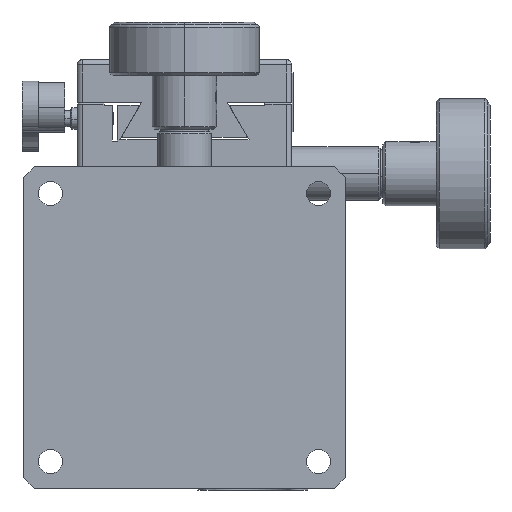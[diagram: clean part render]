
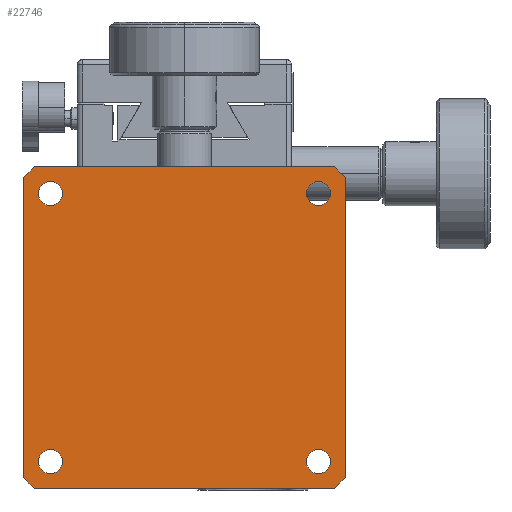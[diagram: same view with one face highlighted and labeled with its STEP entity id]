
A CAD part, front view. The second image highlights one B-rep face of the part: STEP entity #22746.
In plain terms, the highlighted planar face has unit normal (0, -1, 0).
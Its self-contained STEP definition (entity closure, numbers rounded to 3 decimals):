
#327 = CARTESIAN_POINT ( 'NONE',  ( 22.75, 0., 25. ) ) ;
#1733 = CARTESIAN_POINT ( 'NONE',  ( -59., 0., 1. ) ) ;
#2588 = ORIENTED_EDGE ( 'NONE', *, *, #20449, .F. ) ;
#2700 = ORIENTED_EDGE ( 'NONE', *, *, #21807, .T. ) ;
#3586 = CARTESIAN_POINT ( 'NONE',  ( -1., 0., 59. ) ) ;
#4883 = FACE_BOUND ( 'NONE', #30189, .T. ) ;
#6640 = DIRECTION ( 'NONE',  ( 0.707, 0., 0.707 ) ) ;
#7033 = DIRECTION ( 'NONE',  ( 0., 1., 0. ) ) ;
#7730 = ORIENTED_EDGE ( 'NONE', *, *, #87680, .T. ) ;
#7900 = VERTEX_POINT ( 'NONE', #66329 ) ;
#8318 = AXIS2_PLACEMENT_3D ( 'NONE', #34616, #93643, #43062 ) ;
#8976 = VERTEX_POINT ( 'NONE', #66636 ) ;
#9422 = CARTESIAN_POINT ( 'NONE',  ( -25., 0., 25. ) ) ;
#9704 = DIRECTION ( 'NONE',  ( 0., 0., -1. ) ) ;
#10124 = DIRECTION ( 'NONE',  ( 0., 1., 0. ) ) ;
#10268 = CIRCLE ( 'NONE', #67258, 2.25 ) ;
#11246 = CARTESIAN_POINT ( 'NONE',  ( -27.25, 0., -25. ) ) ;
#11653 = VERTEX_POINT ( 'NONE', #11246 ) ;
#12054 = VECTOR ( 'NONE', #57201, 1000. ) ;
#12373 = AXIS2_PLACEMENT_3D ( 'NONE', #15144, #35153, #22229 ) ;
#13105 = EDGE_CURVE ( 'NONE', #75875, #79825, #83135, .T. ) ;
#15144 = CARTESIAN_POINT ( 'NONE',  ( -30., 0., 30. ) ) ;
#15877 = VECTOR ( 'NONE', #35464, 1000. ) ;
#16592 = ORIENTED_EDGE ( 'NONE', *, *, #82965, .F. ) ;
#17905 = DIRECTION ( 'NONE',  ( 1., 0., 0. ) ) ;
#18703 = ORIENTED_EDGE ( 'NONE', *, *, #53435, .T. ) ;
#20449 = EDGE_CURVE ( 'NONE', #57301, #8976, #101525, .T. ) ;
#21781 = DIRECTION ( 'NONE',  ( 1., 0., 0. ) ) ;
#21807 = EDGE_CURVE ( 'NONE', #58912, #7900, #76342, .T. ) ;
#21817 = ORIENTED_EDGE ( 'NONE', *, *, #13105, .F. ) ;
#21945 = FACE_BOUND ( 'NONE', #24502, .T. ) ;
#22022 = DIRECTION ( 'NONE',  ( 0., 1., 0. ) ) ;
#22229 = DIRECTION ( 'NONE',  ( -1., 0., 0. ) ) ;
#22274 = CARTESIAN_POINT ( 'NONE',  ( 25., 0., 25. ) ) ;
#22746 = ADVANCED_FACE ( 'NONE', ( #21945, #4883, #89217, #108924, #86593 ), #58031, .T. ) ;
#24296 = VERTEX_POINT ( 'NONE', #40363 ) ;
#24385 = EDGE_CURVE ( 'NONE', #79705, #103419, #62529, .T. ) ;
#24502 = EDGE_LOOP ( 'NONE', ( #108245, #29066 ) ) ;
#25673 = CARTESIAN_POINT ( 'NONE',  ( 28., 0., -30. ) ) ;
#26823 = AXIS2_PLACEMENT_3D ( 'NONE', #85955, #85083, #85325 ) ;
#29066 = ORIENTED_EDGE ( 'NONE', *, *, #33368, .T. ) ;
#30068 = EDGE_CURVE ( 'NONE', #86393, #96798, #32722, .T. ) ;
#30189 = EDGE_LOOP ( 'NONE', ( #64219, #102596 ) ) ;
#30524 = EDGE_CURVE ( 'NONE', #75875, #8976, #88105, .T. ) ;
#30751 = VERTEX_POINT ( 'NONE', #25673 ) ;
#31618 = ORIENTED_EDGE ( 'NONE', *, *, #83803, .F. ) ;
#32722 = CIRCLE ( 'NONE', #26823, 2.25 ) ;
#33082 = CARTESIAN_POINT ( 'NONE',  ( 30., 0., 28. ) ) ;
#33368 = EDGE_CURVE ( 'NONE', #103419, #79705, #87282, .T. ) ;
#34380 = LINE ( 'NONE', #98546, #12054 ) ;
#34616 = CARTESIAN_POINT ( 'NONE',  ( 25., 0., -25. ) ) ;
#35153 = DIRECTION ( 'NONE',  ( 0., -1., 0. ) ) ;
#35340 = CARTESIAN_POINT ( 'NONE',  ( 30., 0., 30. ) ) ;
#35464 = DIRECTION ( 'NONE',  ( 1., 0., 0. ) ) ;
#35846 = DIRECTION ( 'NONE',  ( 0.707, 0., -0.707 ) ) ;
#36904 = VECTOR ( 'NONE', #100792, 1000. ) ;
#37162 = LINE ( 'NONE', #1733, #56937 ) ;
#37801 = AXIS2_PLACEMENT_3D ( 'NONE', #22274, #22022, #21781 ) ;
#39283 = DIRECTION ( 'NONE',  ( 0., 1., 0. ) ) ;
#40229 = EDGE_LOOP ( 'NONE', ( #55373, #7730 ) ) ;
#40363 = CARTESIAN_POINT ( 'NONE',  ( -22.75, 0., -25. ) ) ;
#41322 = CARTESIAN_POINT ( 'NONE',  ( 28., 0., 30. ) ) ;
#42185 = LINE ( 'NONE', #3586, #64685 ) ;
#42478 = EDGE_CURVE ( 'NONE', #24296, #11653, #65237, .T. ) ;
#42525 = VECTOR ( 'NONE', #6640, 1000. ) ;
#43062 = DIRECTION ( 'NONE',  ( 1., 0., 0. ) ) ;
#43158 = VECTOR ( 'NONE', #68336, 1000. ) ;
#46322 = DIRECTION ( 'NONE',  ( 0., 1., 0. ) ) ;
#46528 = AXIS2_PLACEMENT_3D ( 'NONE', #96881, #46322, #105301 ) ;
#49575 = CARTESIAN_POINT ( 'NONE',  ( 30., 0., -28. ) ) ;
#53435 = EDGE_CURVE ( 'NONE', #7900, #58912, #99878, .T. ) ;
#53583 = EDGE_LOOP ( 'NONE', ( #18703, #2700 ) ) ;
#55373 = ORIENTED_EDGE ( 'NONE', *, *, #42478, .T. ) ;
#56856 = CARTESIAN_POINT ( 'NONE',  ( 22.75, 0., -25. ) ) ;
#56937 = VECTOR ( 'NONE', #35846, 1000. ) ;
#57193 = CARTESIAN_POINT ( 'NONE',  ( -30., 0., -28. ) ) ;
#57201 = DIRECTION ( 'NONE',  ( -1., 0., 0. ) ) ;
#57301 = VERTEX_POINT ( 'NONE', #57193 ) ;
#57429 = CARTESIAN_POINT ( 'NONE',  ( 25., 0., -25. ) ) ;
#58031 = PLANE ( 'NONE',  #12373 ) ;
#58912 = VERTEX_POINT ( 'NONE', #56856 ) ;
#59958 = EDGE_CURVE ( 'NONE', #30751, #103355, #67660, .T. ) ;
#60519 = CARTESIAN_POINT ( 'NONE',  ( -25., 0., -25. ) ) ;
#60648 = EDGE_CURVE ( 'NONE', #57301, #74412, #37162, .T. ) ;
#60653 = CARTESIAN_POINT ( 'NONE',  ( -28., 0., -30. ) ) ;
#61022 = CARTESIAN_POINT ( 'NONE',  ( -22.75, 0., 25. ) ) ;
#62529 = CIRCLE ( 'NONE', #37801, 2.25 ) ;
#62998 = AXIS2_PLACEMENT_3D ( 'NONE', #89842, #39283, #98291 ) ;
#63733 = CARTESIAN_POINT ( 'NONE',  ( -29., 0., 29. ) ) ;
#64219 = ORIENTED_EDGE ( 'NONE', *, *, #30068, .T. ) ;
#64265 = EDGE_CURVE ( 'NONE', #96798, #86393, #10268, .T. ) ;
#64685 = VECTOR ( 'NONE', #104454, 1000. ) ;
#65237 = CIRCLE ( 'NONE', #91795, 2.25 ) ;
#65571 = CARTESIAN_POINT ( 'NONE',  ( 29., 0., -29. ) ) ;
#65962 = DIRECTION ( 'NONE',  ( 1., 0., 0. ) ) ;
#66045 = ORIENTED_EDGE ( 'NONE', *, *, #59958, .T. ) ;
#66329 = CARTESIAN_POINT ( 'NONE',  ( 27.25, 0., -25. ) ) ;
#66636 = CARTESIAN_POINT ( 'NONE',  ( -30., 0., 28. ) ) ;
#67258 = AXIS2_PLACEMENT_3D ( 'NONE', #9422, #68368, #17905 ) ;
#67660 = LINE ( 'NONE', #65571, #42525 ) ;
#68336 = DIRECTION ( 'NONE',  ( -0.707, 0., -0.707 ) ) ;
#68368 = DIRECTION ( 'NONE',  ( 0., 1., 0. ) ) ;
#68627 = CARTESIAN_POINT ( 'NONE',  ( 30., 0., 30. ) ) ;
#69057 = DIRECTION ( 'NONE',  ( 1., 0., 0. ) ) ;
#71517 = CARTESIAN_POINT ( 'NONE',  ( -30., 0., 30. ) ) ;
#71917 = CIRCLE ( 'NONE', #46528, 2.25 ) ;
#73503 = CARTESIAN_POINT ( 'NONE',  ( 27.25, 0., 25. ) ) ;
#74412 = VERTEX_POINT ( 'NONE', #60653 ) ;
#74513 = EDGE_LOOP ( 'NONE', ( #21817, #78957, #2588, #94435, #16592, #66045, #31618, #80457 ) ) ;
#74958 = CARTESIAN_POINT ( 'NONE',  ( -27.25, 0., 25. ) ) ;
#75875 = VERTEX_POINT ( 'NONE', #79045 ) ;
#76342 = CIRCLE ( 'NONE', #97744, 2.25 ) ;
#76682 = VERTEX_POINT ( 'NONE', #33082 ) ;
#78957 = ORIENTED_EDGE ( 'NONE', *, *, #30524, .T. ) ;
#79045 = CARTESIAN_POINT ( 'NONE',  ( -28., 0., 30. ) ) ;
#79705 = VERTEX_POINT ( 'NONE', #73503 ) ;
#79825 = VERTEX_POINT ( 'NONE', #41322 ) ;
#80457 = ORIENTED_EDGE ( 'NONE', *, *, #83449, .T. ) ;
#82965 = EDGE_CURVE ( 'NONE', #30751, #74412, #34380, .T. ) ;
#83105 = VECTOR ( 'NONE', #9704, 1000. ) ;
#83135 = LINE ( 'NONE', #35340, #15877 ) ;
#83449 = EDGE_CURVE ( 'NONE', #76682, #79825, #42185, .T. ) ;
#83803 = EDGE_CURVE ( 'NONE', #76682, #103355, #105462, .T. ) ;
#85083 = DIRECTION ( 'NONE',  ( 0., 1., 0. ) ) ;
#85325 = DIRECTION ( 'NONE',  ( 1., 0., 0. ) ) ;
#85955 = CARTESIAN_POINT ( 'NONE',  ( -25., 0., 25. ) ) ;
#86393 = VERTEX_POINT ( 'NONE', #61022 ) ;
#86593 = FACE_OUTER_BOUND ( 'NONE', #74513, .T. ) ;
#87282 = CIRCLE ( 'NONE', #62998, 2.25 ) ;
#87680 = EDGE_CURVE ( 'NONE', #11653, #24296, #71917, .T. ) ;
#88105 = LINE ( 'NONE', #63733, #43158 ) ;
#89217 = FACE_BOUND ( 'NONE', #40229, .T. ) ;
#89842 = CARTESIAN_POINT ( 'NONE',  ( 25., 0., 25. ) ) ;
#91795 = AXIS2_PLACEMENT_3D ( 'NONE', #60519, #10124, #69057 ) ;
#93643 = DIRECTION ( 'NONE',  ( 0., 1., 0. ) ) ;
#94435 = ORIENTED_EDGE ( 'NONE', *, *, #60648, .T. ) ;
#96798 = VERTEX_POINT ( 'NONE', #74958 ) ;
#96881 = CARTESIAN_POINT ( 'NONE',  ( -25., 0., -25. ) ) ;
#97744 = AXIS2_PLACEMENT_3D ( 'NONE', #57429, #7033, #65962 ) ;
#98291 = DIRECTION ( 'NONE',  ( 1., 0., 0. ) ) ;
#98546 = CARTESIAN_POINT ( 'NONE',  ( 30., 0., -30. ) ) ;
#99878 = CIRCLE ( 'NONE', #8318, 2.25 ) ;
#100792 = DIRECTION ( 'NONE',  ( 0., 0., 1. ) ) ;
#101525 = LINE ( 'NONE', #71517, #36904 ) ;
#102596 = ORIENTED_EDGE ( 'NONE', *, *, #64265, .T. ) ;
#103355 = VERTEX_POINT ( 'NONE', #49575 ) ;
#103419 = VERTEX_POINT ( 'NONE', #327 ) ;
#104454 = DIRECTION ( 'NONE',  ( -0.707, 0., 0.707 ) ) ;
#105301 = DIRECTION ( 'NONE',  ( 1., 0., 0. ) ) ;
#105462 = LINE ( 'NONE', #68627, #83105 ) ;
#108245 = ORIENTED_EDGE ( 'NONE', *, *, #24385, .T. ) ;
#108924 = FACE_BOUND ( 'NONE', #53583, .T. ) ;
